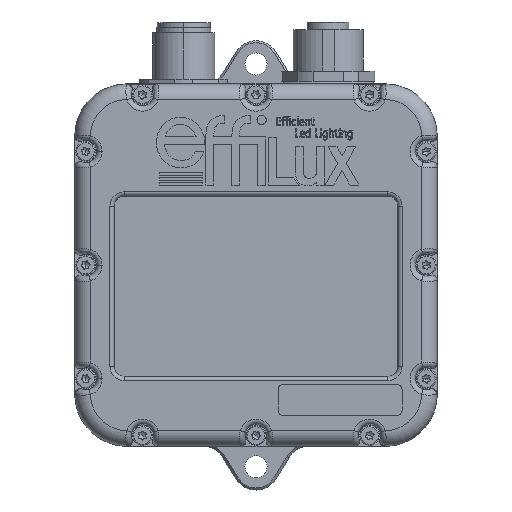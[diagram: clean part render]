
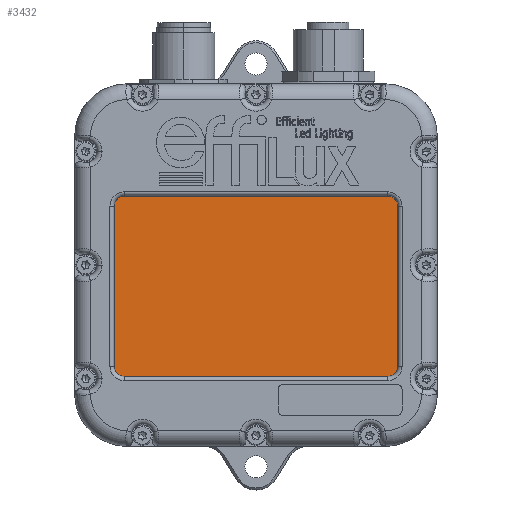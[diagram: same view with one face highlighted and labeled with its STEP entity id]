
A CAD part, top view. The second image highlights one B-rep face of the part: STEP entity #3432.
In plain terms, the highlighted planar face has unit normal (0, 0, 1).
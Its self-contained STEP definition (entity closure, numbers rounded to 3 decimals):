
#974 = CARTESIAN_POINT ( 'NONE',  ( -29.55, -24.845, 30. ) ) ;
#3067 = DIRECTION ( 'NONE',  ( 0., 1., 0. ) ) ;
#3432 = ADVANCED_FACE ( 'NONE', ( #42832 ), #42343, .F. ) ;
#6513 = VERTEX_POINT ( 'NONE', #23103 ) ;
#7686 = VECTOR ( 'NONE', #28314, 1000. ) ;
#8322 = VECTOR ( 'NONE', #27569, 1000. ) ;
#9360 = LINE ( 'NONE', #974, #8322 ) ;
#9705 = CARTESIAN_POINT ( 'NONE',  ( 29.55, -24.845, 30. ) ) ;
#10215 = EDGE_LOOP ( 'NONE', ( #28548, #35882, #25871, #12126 ) ) ;
#12001 = VERTEX_POINT ( 'NONE', #39046 ) ;
#12052 = AXIS2_PLACEMENT_3D ( 'NONE', #34270, #29248, #24641 ) ;
#12126 = ORIENTED_EDGE ( 'NONE', *, *, #38029, .T. ) ;
#13412 = VERTEX_POINT ( 'NONE', #21145 ) ;
#19039 = EDGE_CURVE ( 'NONE', #32170, #12001, #31579, .T. ) ;
#21145 = CARTESIAN_POINT ( 'NONE',  ( 29.55, -24.845, 30. ) ) ;
#21888 = VECTOR ( 'NONE', #26163, 1000. ) ;
#22588 = VECTOR ( 'NONE', #3067, 1000. ) ;
#23103 = CARTESIAN_POINT ( 'NONE',  ( -29.55, -24.845, 30. ) ) ;
#24641 = DIRECTION ( 'NONE',  ( -1., 0., 0. ) ) ;
#25084 = CARTESIAN_POINT ( 'NONE',  ( -29.55, -24.845, 30. ) ) ;
#25127 = CARTESIAN_POINT ( 'NONE',  ( -29.55, 16.655, 30. ) ) ;
#25593 = EDGE_CURVE ( 'NONE', #13412, #32170, #41109, .T. ) ;
#25871 = ORIENTED_EDGE ( 'NONE', *, *, #33573, .T. ) ;
#26163 = DIRECTION ( 'NONE',  ( -1., 0., 0. ) ) ;
#27569 = DIRECTION ( 'NONE',  ( 0., -1., 0. ) ) ;
#28314 = DIRECTION ( 'NONE',  ( 1., 0., 0. ) ) ;
#28548 = ORIENTED_EDGE ( 'NONE', *, *, #25593, .T. ) ;
#29248 = DIRECTION ( 'NONE',  ( 0., 0., -1. ) ) ;
#31579 = LINE ( 'NONE', #25127, #21888 ) ;
#32170 = VERTEX_POINT ( 'NONE', #36210 ) ;
#32918 = LINE ( 'NONE', #25084, #7686 ) ;
#33573 = EDGE_CURVE ( 'NONE', #12001, #6513, #9360, .T. ) ;
#34270 = CARTESIAN_POINT ( 'NONE',  ( 0., -4.095, 30. ) ) ;
#35882 = ORIENTED_EDGE ( 'NONE', *, *, #19039, .T. ) ;
#36210 = CARTESIAN_POINT ( 'NONE',  ( 29.55, 16.655, 30. ) ) ;
#38029 = EDGE_CURVE ( 'NONE', #6513, #13412, #32918, .T. ) ;
#39046 = CARTESIAN_POINT ( 'NONE',  ( -29.55, 16.655, 30. ) ) ;
#41109 = LINE ( 'NONE', #9705, #22588 ) ;
#42343 = PLANE ( 'NONE',  #12052 ) ;
#42832 = FACE_OUTER_BOUND ( 'NONE', #10215, .T. ) ;
